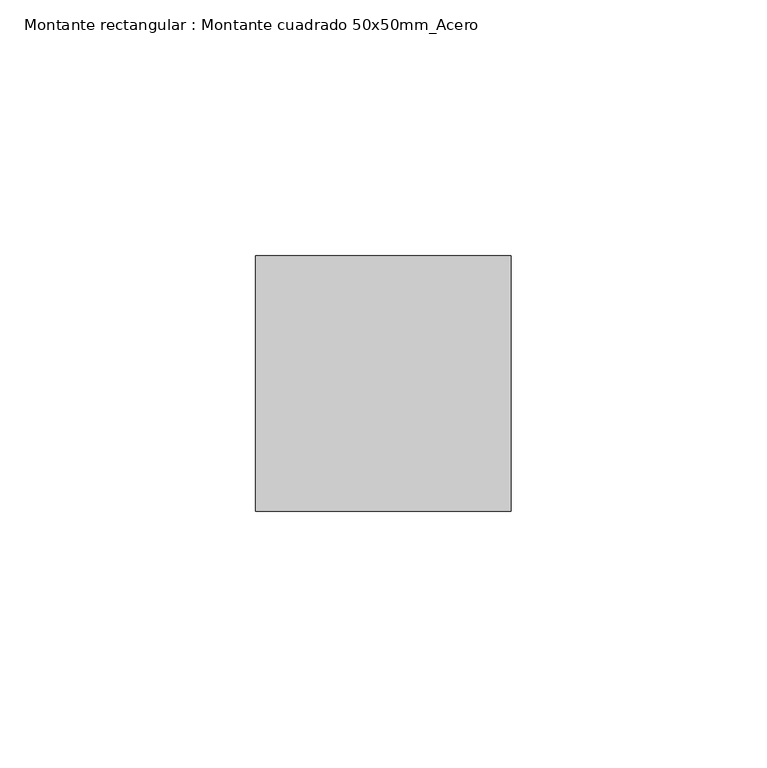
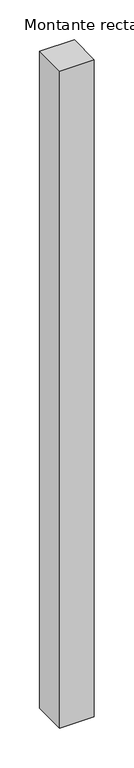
"""IFC4 building model written with IfcOpenShell, lengths in millimetres: member geometry, Montante rectangular : Montante cuadrado 50x50mm_Acero."""

from ifc_helpers import new_model, si_unit, frame, origin, place, context, project, spatial, polyline, outline, extrude, source, transform, mapped, element, save


def montante_rectangular_montante_cuadrado_50x50mm_acero_eb120289(model_context):
    return source(origin(), model_context, "Body", "SweptSolid", [
        extrude(outline(polyline([(0.0, 0.0), (0.0, -50.0), (-50.0, -50.0), (-50.0, 0.0), (0.0, 0.0)])), frame((0.0, 0.0, -1004.0000019), z_axis=(0.0, 0.0, 1.0), x_axis=(1.0, 0.0, 0.0)), (0.0, 0.0, 1.0), 1004.0000019),
    ])


if __name__ == "__main__":
    model = new_model("IFC4")
    model_context = context("Model", 3, world=origin())
    ifc_project = project(units=[si_unit("LENGTHUNIT", "METRE", prefix="MILLI")], contexts=[model_context])
    site = spatial("IfcSite", under=ifc_project)
    building = spatial("IfcBuilding", under=site)
    placement = place(None, origin())
    montante_rectangular_montante_cuadrado_50x50mm_acero_shape = montante_rectangular_montante_cuadrado_50x50mm_acero_eb120289(model_context)
    element("IfcMember", 1, ObjectType="Montante rectangular : Montante cuadrado 50x50mm_Acero", at=placement, inside=building, context=model_context, shape_type="MappedRepresentation", body=[
        mapped(montante_rectangular_montante_cuadrado_50x50mm_acero_shape, transform((0.0, 0.0, 0.0), x_axis=(1.0, 0.0, 0.0), y_axis=(0.0, 1.0, 0.0), z_axis=(0.0, 0.0, 1.0))),
    ])
    save(model, "model.ifc")
